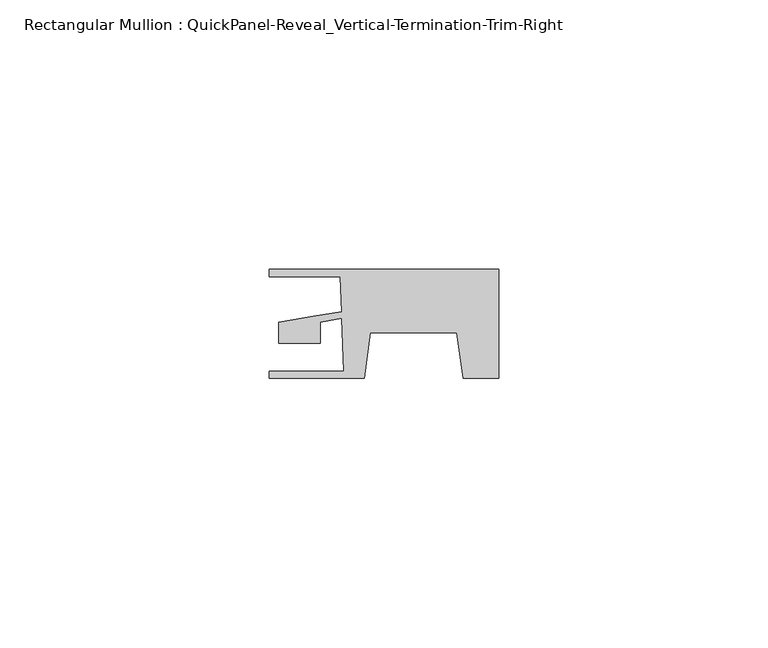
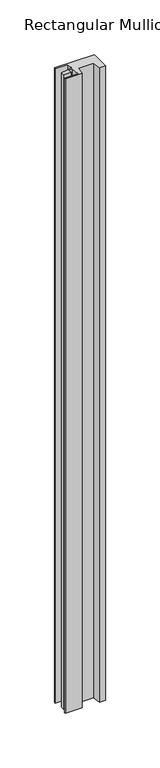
"""IFC4 building model written with IfcOpenShell, lengths in millimetres: member geometry, Rectangular Mullion : QuickPanel-Reveal_Vertical-Termination-Trim-Right."""

from ifc_helpers import new_model, si_unit, frame, origin, place, context, project, spatial, polyline, outline, extrude, source, transform, mapped, element, save


def rectangular_mullion_quickpanel_reveal_vertical_termination_442d93d2(model_context):
    return source(origin(), model_context, "Body", "SweptSolid", [
        extrude(outline(polyline([(-42.7011763, 8.095605), (0.0, 8.095605), (0.0, -12.1803727), (-6.6616417, -12.1803727), (-7.8503594, -3.7222065), (-23.8634859, -3.7222065), (-25.0522037, -12.1803727), (-42.7011763, -12.1803727), (-42.7011763, -10.9303752), (-28.8448229, -10.9303752), (-29.1887499, -1.0815922), (-33.1743189, -1.7648465), (-33.1743189, -5.6493034), (-40.919092, -5.6493034), (-40.919092, -1.8040245), (-34.4837593, -0.7008023), (-29.2334784, 0.1992641), (-29.4602636, 6.6935423), (-42.7011763, 6.6935423), (-42.7011763, 8.095605)])), frame((0.0, 0.0, -710.1035546), z_axis=(0.0, 0.0, 1.0), x_axis=(1.0, 0.0, 0.0)), (0.0, 0.0, 1.0), 710.1035546),
    ])


if __name__ == "__main__":
    model = new_model("IFC4")
    model_context = context("Model", 3, world=origin())
    ifc_project = project(units=[si_unit("LENGTHUNIT", "METRE", prefix="MILLI")], contexts=[model_context])
    site = spatial("IfcSite", under=ifc_project)
    building = spatial("IfcBuilding", under=site)
    placement = place(None, origin())
    rectangular_mullion_quickpanel_reveal_vertical_termination_shape = rectangular_mullion_quickpanel_reveal_vertical_termination_442d93d2(model_context)
    element("IfcMember", 1, ObjectType="Rectangular Mullion : QuickPanel-Reveal_Vertical-Termination-Trim-Right", at=placement, inside=building, context=model_context, shape_type="MappedRepresentation", body=[
        mapped(rectangular_mullion_quickpanel_reveal_vertical_termination_shape, transform((0.0, 0.0, 0.0), x_axis=(1.0, 0.0, 0.0), y_axis=(0.0, 1.0, 0.0), z_axis=(0.0, 0.0, 1.0))),
    ])
    save(model, "model.ifc")
